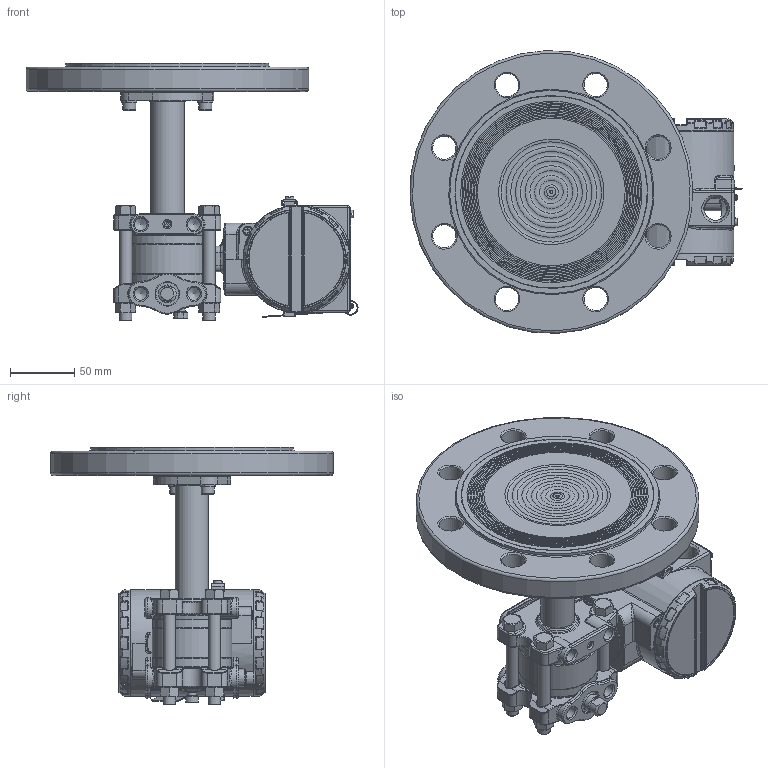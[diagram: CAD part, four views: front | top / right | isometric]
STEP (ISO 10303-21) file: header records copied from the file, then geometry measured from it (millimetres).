
FILE_DESCRIPTION(/* description */ (''),/* implementation_level */ '2;1');
FILE_NAME(/* name */ 'F:\Area\Desenvolvimento_2\Projects\Sensor\projetos\LD30X\montagens 3d - clientes\SELO NIVEL\LD30XL DN100 PN16 RF ref 1-4NPT purga acima.stp',/* time_stamp */ '2023-02-15T11:34:37-03:00',/* author */ ('inventor02'),/* organization */ (''),/* preprocessor_version */ 'ST-DEVELOPER v17',/* originating_system */ 'Autodesk Inventor 2019',/* authorisation */ '');
FILE_SCHEMA (('CONFIG_CONTROL_DESIGN'));
Products named in the file (38): LD30XL DN100 PN16 RF ref 1-4NPT purga acima; 204-0301-L-DN100 PN16 RF purga acima; nivel fx3 com baixa diferencial 1-4NPT purga acima; involucro fx0-3 apos a usinagem final; flange diferencial std purga; 101-C-7484-01 flange selo nivel VR; 201-A-0504-tubo união teste 1; bujao 1-4NPT; Sangria; Porca 3-8 x 16 UNC; Paraf. 3-8 x 16 UNC; adaptação tubo x flanges 1-1-2 a 4pol; 101-B-0161-anel cortado do tubo - teste1; 101-B-0162-flange fixação tubo; ANSI B18.3.1M - M6x1 x 16; DIN 127 - A 6; 101-C-0139-09; carcaça vazia com tampas e plaqueta; carcaça LD inox sem letras; Subconjunto plaqueta 300; Plaqueta transmissor; Parafuso da Plaqueta; Rebite da Plaqueta; 096-A-0169-03; 101-A-0502-01; Chapa aterramento externo; ISO 1207 - M4 x 8; DIN 915 - M6 x 10; ANSI B18.3.1M - M4x0,7 x 8; Subconjunto tampa com visor aluminio; tampa pintada; VIDRO DO VISOR; oring 41x1 vidro tampa; Trava do vidro da tampa com visor; trava do vidro VH256; Subconjunto tampa sem visor-aluminio; tampa cega 300 pintada p0; 00034775-0
Assembly tree (48 placements, depth 4):
  LD30XL DN100 PN16 RF ref 1-4NPT purga acima
    204-0301-L-DN100 PN16 RF purga acima
      nivel fx3 com baixa diferencial 1-4NPT purga acima
        involucro fx0-3 apos a usinagem final
        flange diferencial std purga
        101-C-7484-01 flange selo nivel VR
        201-A-0504-tubo união teste 1
        DIN 915 - M6 x 10
        bujao 1-4NPT
        Sangria
        Porca 3-8 x 16 UNC  x4
        Paraf. 3-8 x 16 UNC  x4
      adaptação tubo x flanges 1-1-2 a 4pol
        101-B-0161-anel cortado do tubo - teste1
        101-B-0162-flange fixação tubo
        ANSI B18.3.1M - M6x1 x 16  x2
        DIN 127 - A 6  x2
      101-C-0139-09
    carcaça vazia com tampas e plaqueta
      carcaça LD inox sem letras
      Subconjunto plaqueta 300
        Plaqueta transmissor
        Parafuso da Plaqueta
        Rebite da Plaqueta
        096-A-0169-03
        101-A-0502-01
      Chapa aterramento externo
      ISO 1207 - M4 x 8
      DIN 915 - M6 x 10
      ANSI B18.3.1M - M4x0,7 x 8  x2
      Subconjunto tampa com visor aluminio
        tampa pintada
        VIDRO DO VISOR
        oring 41x1 vidro tampa
        Trava do vidro da tampa com visor
        trava do vidro VH256
        00034775-0
      Subconjunto tampa sem visor-aluminio
        tampa cega 300 pintada p0
        00034775-0
Bounding box: 258.17 x 219.79 x 200.3 mm (x, y, z)
Volume: 1335928.9 mm3; surface area: 350775.2 mm2
Topology: 41 solids, 41 shells, 2694 faces, 6460 edges, 3808 vertices
Faces by surface type: bspline 666, cylinder 652, plane 546, torus 454, cone 250, sphere 126
Full cylindrical faces by diameter (mm): 2 x4, 2.1 x2, 2.459 x5, 2.5 x1, 2.642 x1, 2.7 x1, 2.8 x1, 3 x4, 3.242 x4, 3.5 x5, 3.571 x1, 4 x5, 4.3 x1, 4.4 x1, 4.917 x4, 5 x1, 5.5 x3, 6 x6, 6.647 x1, 7 x7, 7.087 x2, 7.6 x2, 7.798 x4, 8 x1, 8.7 x2, 9.525 x4, 9.728 x6, 10 x2, 10.5 x8, 10.719 x2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
Entity records: 93154 total; most frequent: CARTESIAN_POINT 34405, ORIENTED_EDGE 12100, DIRECTION 12077, EDGE_CURVE 6050, AXIS2_PLACEMENT_3D 5318, VERTEX_POINT 3614, CIRCLE 3140, EDGE_LOOP 2728
